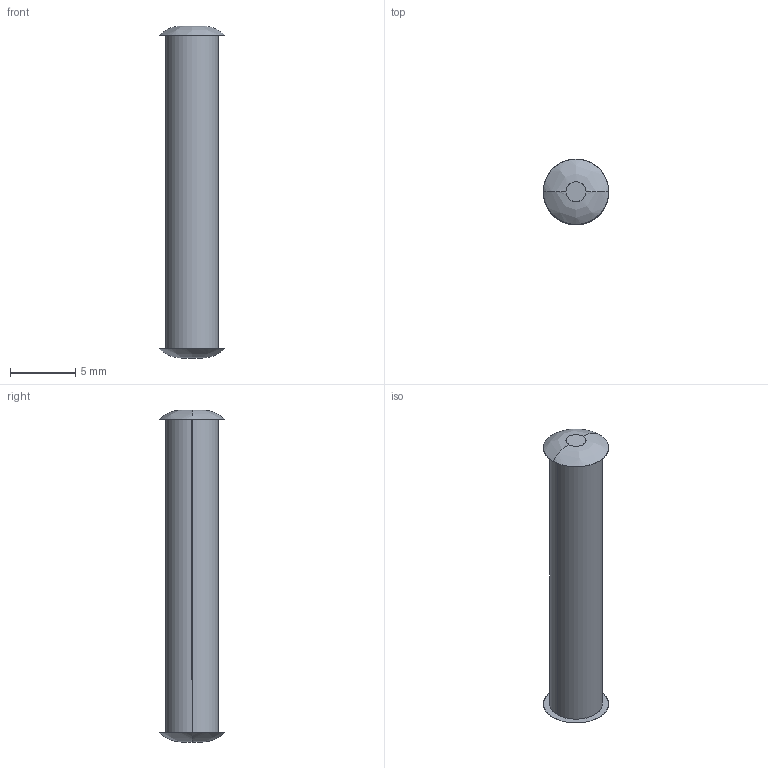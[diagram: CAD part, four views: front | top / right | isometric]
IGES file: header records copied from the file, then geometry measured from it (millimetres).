
Start section: SolidWorks IGES FILE using analytic representation for surfaces
Global section: file name: C:\Documents and Settings\lecoutey\Bureau\GO 79\GO 32.040.10.IGS; native system: SolidWorks 2004 by SolidWorks Corporation; preprocessor: Version 5.3; author: lecoutey; date: 050329.115249; units: millimetre
Bounding box: 5 x 5 x 25.4 mm (x, y, z)
Surface area: 359.8 mm2 (no closed solid volume)
Topology: 0 solids, 0 shells, 10 faces, 184 edges, 184 vertices
Faces by surface type: bspline 8, revolution 2
